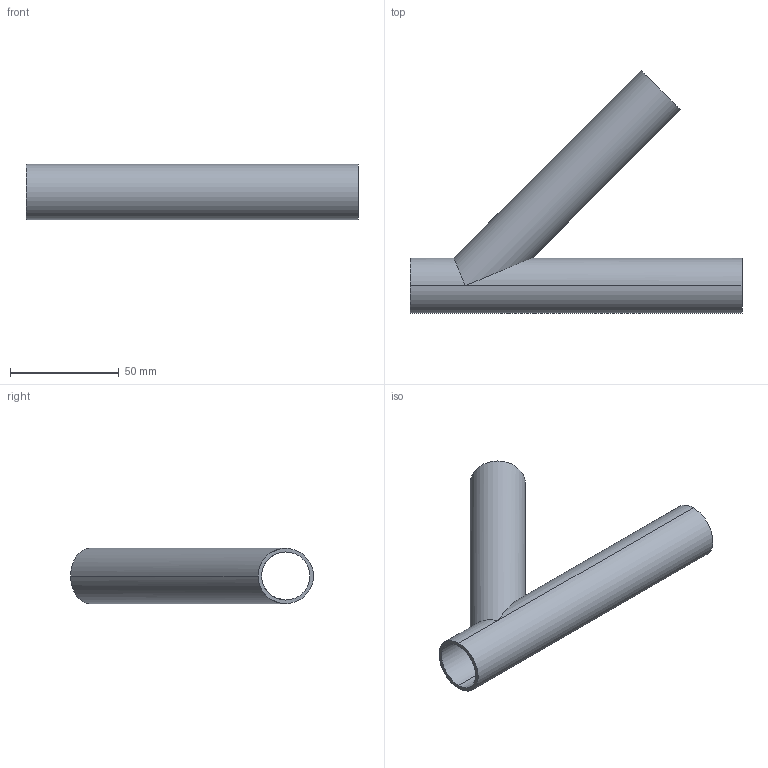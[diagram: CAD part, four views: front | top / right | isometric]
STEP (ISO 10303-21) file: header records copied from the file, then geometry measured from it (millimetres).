
FILE_DESCRIPTION (( 'STEP AP214' ), '1' );
FILE_NAME ('TE28WA6L1.0-...STEP', '2016-05-24T12:42:27', ( 'eran' ), ( '' ), 'SwSTEP 2.0', 'SolidWorks 2016', '' );
FILE_SCHEMA (( 'AUTOMOTIVE_DESIGN' ));
Length unit declared in the file: millimetre
Products named in the file (1): TE28WA6L1.0-..
Bounding box: 152.4 x 111.48 x 25.4 mm (x, y, z)
Volume: 31760.6 mm3; surface area: 38856.8 mm2
Topology: 1 solids, 1 shells, 13 faces, 32 edges, 20 vertices
Faces by surface type: cylinder 10, plane 3
Entity records: 428 total; most frequent: CARTESIAN_POINT 90, DIRECTION 64, ORIENTED_EDGE 64, EDGE_CURVE 32, AXIS2_PLACEMENT_3D 26, VERTEX_POINT 20, EDGE_LOOP 16, ADVANCED_FACE 13
